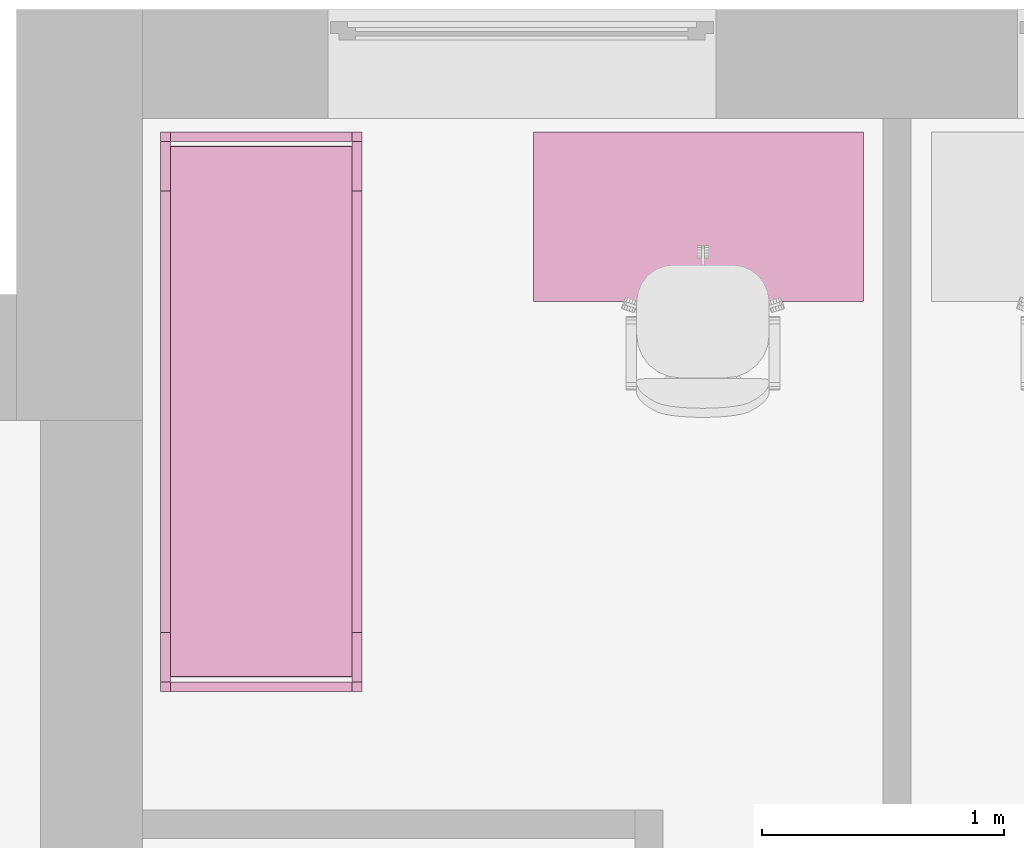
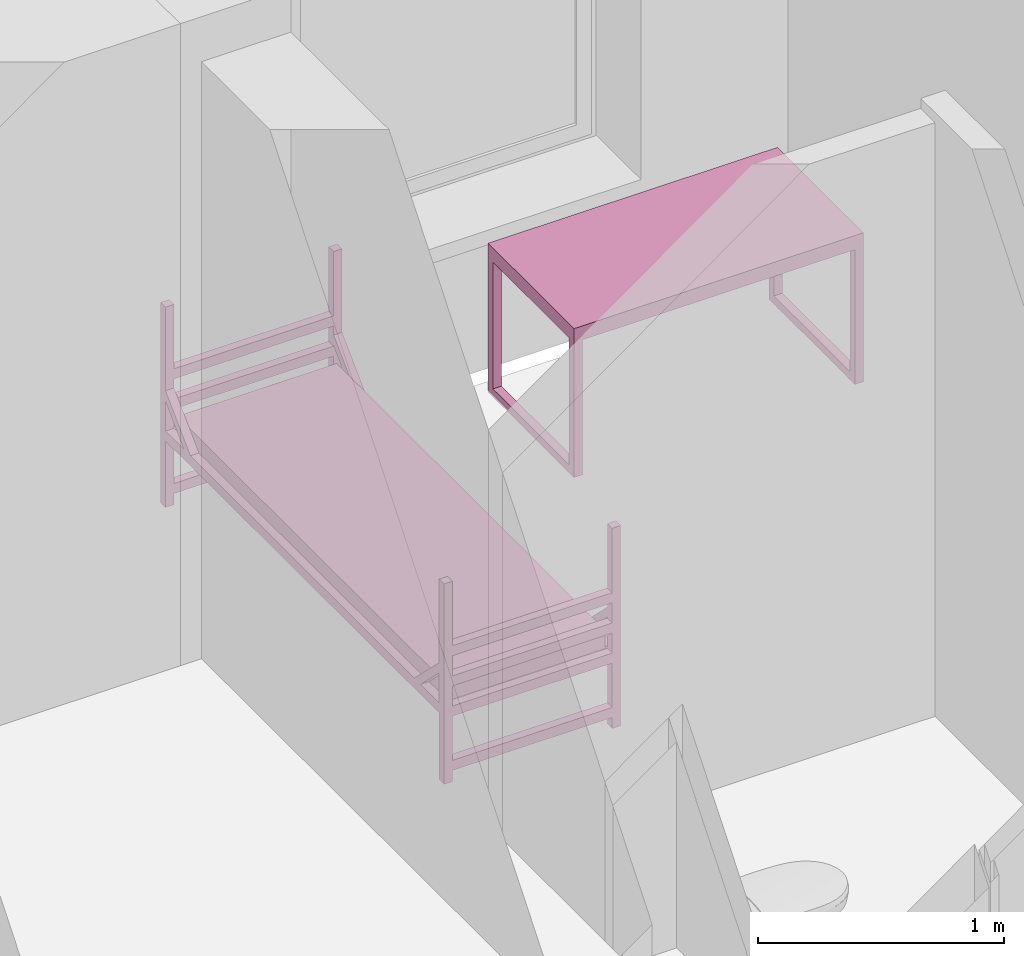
# One storey, part 27 of 48: 2 furnishings.
"""IFC2X3 building model written with IfcOpenShell, lengths in millimetres."""

from ifc_helpers import new_model, entity, si_unit, converted_unit, derived_unit, direction, frame, frame_2d, origin, place, context, subcontext, project, spatial, polyline, circle_curve, parameter, trimmed, segment, composite_curve, rectangle, outline, extrude, faceted_brep, source, transform, mapped, material, material_list, type_object, type_shapes, element, save


model = new_model("IFC2X3")

# Units and contexts
model_context = context("Model", 3, precision=0.01, world=origin(), true_north=direction((6.12303176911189e-17, 1.0)))
body_context = subcontext(model_context, "Body", "Model", "MODEL_VIEW")
ifc_project = project(units=[si_unit("LENGTHUNIT", "METRE", prefix="MILLI"), si_unit("AREAUNIT", "SQUARE_METRE"), si_unit("VOLUMEUNIT", "CUBIC_METRE"), converted_unit("PLANEANGLEUNIT", "DEGREE", entity("IfcRatioMeasure", 0.0174532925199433), si_unit("PLANEANGLEUNIT", "RADIAN"), dimensions=[0, 0, 0, 0, 0, 0, 0]), si_unit("MASSUNIT", "GRAM", prefix="KILO"), derived_unit("MASSDENSITYUNIT", [(si_unit("MASSUNIT", "GRAM", prefix="KILO"), 1), (si_unit("LENGTHUNIT", "METRE"), -3)]), si_unit("TIMEUNIT", "SECOND"), si_unit("FREQUENCYUNIT", "HERTZ"), si_unit("THERMODYNAMICTEMPERATUREUNIT", "DEGREE_CELSIUS"), derived_unit("THERMALTRANSMITTANCEUNIT", [(si_unit("MASSUNIT", "GRAM", prefix="KILO"), 1), (si_unit("THERMODYNAMICTEMPERATUREUNIT", "KELVIN"), -1), (si_unit("TIMEUNIT", "SECOND"), -3)]), derived_unit("VOLUMETRICFLOWRATEUNIT", [(si_unit("LENGTHUNIT", "METRE"), 3), (si_unit("TIMEUNIT", "SECOND"), -1)]), si_unit("ELECTRICCURRENTUNIT", "AMPERE"), si_unit("ELECTRICVOLTAGEUNIT", "VOLT"), si_unit("POWERUNIT", "WATT"), si_unit("FORCEUNIT", "NEWTON", prefix="KILO"), si_unit("ILLUMINANCEUNIT", "LUX"), si_unit("LUMINOUSFLUXUNIT", "LUMEN"), si_unit("LUMINOUSINTENSITYUNIT", "CANDELA"), derived_unit("USERDEFINED", [(si_unit("MASSUNIT", "GRAM", prefix="KILO"), -1), (si_unit("LENGTHUNIT", "METRE"), -2), (si_unit("TIMEUNIT", "SECOND"), 3), (si_unit("LUMINOUSFLUXUNIT", "LUMEN"), 1)]), derived_unit("LINEARVELOCITYUNIT", [(si_unit("LENGTHUNIT", "METRE"), 1), (si_unit("TIMEUNIT", "SECOND"), -1)]), si_unit("PRESSUREUNIT", "PASCAL"), derived_unit("USERDEFINED", [(si_unit("LENGTHUNIT", "METRE"), -2), (si_unit("MASSUNIT", "GRAM", prefix="KILO"), 1), (si_unit("TIMEUNIT", "SECOND"), -2)]), derived_unit("LINEARFORCEUNIT", [(si_unit("MASSUNIT", "GRAM", prefix="KILO"), 1), (si_unit("LENGTHUNIT", "METRE"), 1), (si_unit("TIMEUNIT", "SECOND"), -2), (si_unit("LENGTHUNIT", "METRE"), -1)]), derived_unit("PLANARFORCEUNIT", [(si_unit("MASSUNIT", "GRAM", prefix="KILO"), 1), (si_unit("LENGTHUNIT", "METRE"), 1), (si_unit("TIMEUNIT", "SECOND"), -2), (si_unit("LENGTHUNIT", "METRE"), -2)])], contexts=[model_context])

# Site, building, storey, space
site_placement = place(None, origin())
site = spatial("IfcSite", under=ifc_project, at=site_placement, Name="Default", CompositionType="ELEMENT")
building_placement = place(site_placement, origin())
building = spatial("IfcBuilding", under=site, at=building_placement, Name="SMA ARH", CompositionType="ELEMENT")
storey_placement = place(building_placement, frame((0.0, 0.0, 6600.0)))
storey = spatial("IfcBuildingStorey", under=building, at=storey_placement, Name="3 Korrus", CompositionType="ELEMENT", Elevation=6599.99999999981)
space_placement = place(storey_placement, origin())
space = spatial("IfcSpace", under=storey, at=space_placement, Name="3-20/1", CompositionType="ELEMENT", InteriorOrExteriorSpace="INTERNAL")

# Furnishings
ifc_material_1 = material(Name="Madrats")
furniture_type_1 = type_object("IfcFurnitureType", Name="Kasarmu voodi ühekordne 2308x830:Kasarmu voodi ühekordne 2308x830", material=ifc_material_1)
shared_shape_1 = source(origin(), body_context, "Body", "SweptSolid", [
    extrude(rectangle(XDim=39.9999999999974, YDim=750.000000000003, at=frame_2d((-1.35003119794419e-13, -2.8421709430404e-14), x_axis=(1.0, 0.0))), frame((1.68638457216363, -1226.7969571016, 55.0), z_axis=(0.0, 0.0, 1.0), x_axis=(0.0, -1.0, 0.0)), (0.0, 0.0, 1.0), 49.9999999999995),
    extrude(rectangle(XDim=39.9999999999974, YDim=750.000000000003, at=frame_2d((-1.35003119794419e-13, -2.8421709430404e-14), x_axis=(1.0, 0.0))), frame((1.68638457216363, -1226.7969571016, 325.0), z_axis=(0.0, 0.0, 1.0), x_axis=(0.0, -1.0, 0.0)), (0.0, 0.0, 1.0), 49.9999999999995),
    extrude(rectangle(XDim=39.9999999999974, YDim=750.000000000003, at=frame_2d((-1.35003119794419e-13, -2.8421709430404e-14), x_axis=(1.0, 0.0))), frame((1.68638457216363, -1226.7969571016, 475.0), z_axis=(0.0, 0.0, 1.0), x_axis=(0.0, -1.0, 0.0)), (0.0, 0.0, 1.0), 49.9999999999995),
    extrude(rectangle(XDim=39.9999999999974, YDim=750.000000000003, at=frame_2d((-1.35003119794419e-13, -2.8421709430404e-14), x_axis=(1.0, 0.0))), frame((1.68638457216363, -1226.7969571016, 625.0), z_axis=(0.0, 0.0, 1.0), x_axis=(0.0, -1.0, 0.0)), (0.0, 0.0, 1.0), 50.0000000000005),
    extrude(rectangle(XDim=39.9999999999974, YDim=750.000000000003, at=frame_2d((1.35003119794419e-13, -2.8421709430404e-14), x_axis=(1.0, 0.0))), frame((1.68638457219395, 1041.2030428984, 55.0), z_axis=(0.0, 0.0, 1.0), x_axis=(0.0, -1.0, 0.0)), (0.0, 0.0, 1.0), 50.0000000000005),
    extrude(rectangle(XDim=39.9999999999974, YDim=750.000000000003, at=frame_2d((1.35003119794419e-13, -2.8421709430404e-14), x_axis=(1.0, 0.0))), frame((1.68638457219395, 1041.2030428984, 325.0), z_axis=(0.0, 0.0, 1.0), x_axis=(0.0, -1.0, 0.0)), (0.0, 0.0, 1.0), 50.0000000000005),
    extrude(rectangle(XDim=39.9999999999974, YDim=750.000000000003, at=frame_2d((1.35003119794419e-13, -2.8421709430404e-14), x_axis=(1.0, 0.0))), frame((1.68638457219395, 1041.2030428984, 475.0), z_axis=(0.0, 0.0, 1.0), x_axis=(0.0, -1.0, 0.0)), (0.0, 0.0, 1.0), 50.0000000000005),
    extrude(rectangle(XDim=39.9999999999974, YDim=750.000000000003, at=frame_2d((1.35003119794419e-13, -2.8421709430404e-14), x_axis=(1.0, 0.0))), frame((1.68638457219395, 1041.2030428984, 625.0), z_axis=(0.0, 0.0, 1.0), x_axis=(0.0, -1.0, 0.0)), (0.0, 0.0, 1.0), 49.9999999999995),
    extrude(outline(composite_curve([segment(trimmed(circle_curve(frame_2d((1085.0, -40.0), x_axis=(1.0, 0.0)), 10.0), [parameter(270.0)], [parameter(0.0)], True, "PARAMETER"), True, "CONTINUOUS"), segment(polyline([(1095.0, -40.0), (1095.0, 40.0)]), True, "CONTINUOUS"), segment(trimmed(circle_curve(frame_2d((1085.0, 40.0), x_axis=(1.0, 0.0)), 10.0), [parameter(0.0)], [parameter(90.0000000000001)], True, "PARAMETER"), True, "CONTINUOUS"), segment(polyline([(1085.0, 50.0), (-1085.0, 50.0)]), True, "CONTINUOUS"), segment(trimmed(circle_curve(frame_2d((-1085.0, 40.0), x_axis=(1.0, 0.0)), 10.0), [parameter(90.0000000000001)], [parameter(180.0)], True, "PARAMETER"), True, "CONTINUOUS"), segment(polyline([(-1095.0, 40.0), (-1095.0, -40.0)]), True, "CONTINUOUS"), segment(trimmed(circle_curve(frame_2d((-1085.0, -40.0), x_axis=(1.0, 0.0)), 10.0), [parameter(180.0)], [parameter(270.0)], True, "PARAMETER"), True, "CONTINUOUS"), segment(polyline([(-1085.0, -50.0), (1085.0, -50.0)]), True, "CONTINUOUS")], self_intersect=False)), frame((-373.313615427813, -92.7969571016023, 405.0), z_axis=(1.0, 0.0, 0.0), x_axis=(0.0, -1.0, 0.0)), (0.0, 0.0, 1.0), 750.000000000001),
    extrude(outline(polyline([(-1114.0, -100.0), (1114.0, -100.0), (1114.0, -50.0), (961.59199141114, -50.0), (1114.0, 100.0), (1114.0, 150.0), (910.789321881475, -50.0), (-910.789321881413, -50.0), (-1114.0, 150.0), (-1114.0, 100.0), (-961.591991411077, -50.0), (-1114.0, -50.0), (-1114.0, -100.0)])), frame((-413.313615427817, -92.7969571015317, 430.0), z_axis=(1.0, 0.0, 0.0), x_axis=(0.0, 1.0, 0.0)), (0.0, 0.0, 1.0), 39.9999999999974),
    extrude(outline(polyline([(-1114.0, -100.0), (1114.0, -100.0), (1114.0, -50.0), (961.591991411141, -50.0), (1114.0, 100.0), (1114.0, 150.0), (910.789321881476, -50.0), (-910.789321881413, -50.0), (-1114.0, 150.0), (-1114.0, 100.0), (-961.591991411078, -50.0), (-1114.0, -50.0), (-1114.0, -100.0)])), frame((376.686384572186, -92.796957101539, 430.0), z_axis=(1.0, 0.0, 0.0), x_axis=(0.0, 1.0, 0.0)), (0.0, 0.0, 1.0), 39.9999999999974),
    extrude(rectangle(XDim=39.9999999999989, YDim=39.9999999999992, at=frame_2d((-6.75015598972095e-14, 0.0), x_axis=(1.0, 0.0))), frame((396.686384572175, -1226.79695710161, 0.0), z_axis=(0.0, 0.0, 1.0), x_axis=(0.0, 1.0, 0.0)), (0.0, 0.0, 1.0), 995.0),
    extrude(rectangle(XDim=39.9999999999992, YDim=39.9999999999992, at=frame_2d((-1.35003119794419e-13, 0.0), x_axis=(1.0, 0.0))), frame((396.686384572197, 1041.20304289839, 0.0), z_axis=(0.0, 0.0, 1.0), x_axis=(0.0, 1.0, 0.0)), (0.0, 0.0, 1.0), 995.0),
    extrude(rectangle(XDim=40.0000000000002, YDim=39.9999999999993, at=frame_2d((-1.35003119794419e-13, 0.0), x_axis=(1.0, 0.0))), frame((-393.313615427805, 1041.2030428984, 0.0), z_axis=(0.0, 0.0, 1.0), x_axis=(0.0, 1.0, 0.0)), (0.0, 0.0, 1.0), 995.0),
    extrude(rectangle(XDim=39.9999999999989, YDim=39.9999999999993, at=frame_2d((-6.75015598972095e-14, 0.0), x_axis=(1.0, 0.0))), frame((-393.313615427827, -1226.7969571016, 0.0), z_axis=(0.0, 0.0, 1.0), x_axis=(0.0, 1.0, 0.0)), (0.0, 0.0, 1.0), 995.0),
])
type_shapes(furniture_type_1, [shared_shape_1])
furnishing_1_placement = place(space_placement, frame((2653.31361542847, 11380.0, 0.0)))
element("IfcFurnishingElement", 1, at=furnishing_1_placement, inside=space, type_object=furniture_type_1, material=ifc_material_1, Name="Kasarmu voodi ühekordne 2308x830:Kasarmu voodi ühekordne 2308x830", ObjectType="Kasarmu voodi ühekordne 2308x830:Kasarmu voodi ühekordne 2308x830", context=body_context, shape_type="MappedRepresentation", body=[
    mapped(shared_shape_1, transform((0.0, 0.0, 0.0), scale=1.0)),
])
ifc_material_2 = material(Name="<Unnamed>")
ifc_material_list = material_list([ifc_material_2, ifc_material_2])
furniture_type_2 = type_object("IfcFurnitureType", Name="kirjutuslaud 1360x700mm:kirjutuslaud 1360x700mm", material=ifc_material_list)
shared_shape_2 = source(origin(), body_context, "Body", "Brep", [
    faceted_brep([(680.0, -350.0, 720.0), (680.0, 350.0, 720.0), (680.0, 350.0, 750.0), (680.0, -350.0, 750.0), (-680.0, -350.0, 720.0), (-680.0, -350.0, 750.0), (-680.0, 350.0, 750.0), (-680.0, 350.0, 720.0)], [[[0, 1, 2, 3]], [[4, 5, 6, 7]], [[1, 0, 4, 7]], [[2, 1, 7, 6]], [[3, 2, 6, 5]], [[0, 3, 5, 4]]]),
    faceted_brep([(-640.0, -310.0, 680.0), (-640.0, 310.0, 680.0), (-640.0, 310.0, 720.0), (-640.0, -310.0, 720.0), (-680.0, -350.0, 720.0), (-680.0, 350.0, 720.0), (-680.0, 350.0, 10.0), (-680.0, -350.0, 10.0), (-680.0, 310.0, 680.0), (-680.0, -310.0, 680.0), (-680.0, -310.0, 50.0), (-680.0, 310.0, 50.0), (-640.0, -350.0, 10.0), (-640.0, -350.0, 680.0), (640.0, -350.0, 680.0), (640.0, -350.0, 10.0), (680.0, -350.0, 10.0), (680.0, -350.0, 720.0), (-640.0, 350.0, 10.0), (680.0, 350.0, 720.0), (680.0, 350.0, 10.0), (640.0, 350.0, 10.0), (640.0, 350.0, 680.0), (-640.0, 350.0, 680.0), (640.0, 310.0, 720.0), (640.0, -310.0, 720.0), (-640.0, 310.0, 50.0), (-640.0, -310.0, 50.0), (640.0, -310.0, 680.0), (640.0, 310.0, 680.0), (680.0, 310.0, 680.0), (680.0, 310.0, 50.0), (680.0, -310.0, 50.0), (680.0, -310.0, 680.0), (640.0, -310.0, 50.0), (640.0, 310.0, 50.0)], [[[0, 1, 2, 3]], [[4, 5, 6, 7], [8, 9, 10, 11]], [[4, 7, 12, 13, 14, 15, 16, 17]], [[18, 12, 7, 6]], [[6, 5, 19, 20, 21, 22, 23, 18]], [[19, 5, 4, 17], [2, 24, 25, 3]], [[26, 1, 8, 11]], [[27, 26, 11, 10]], [[0, 27, 10, 9]], [[1, 0, 9, 8]], [[14, 13, 0, 28]], [[24, 2, 1, 29]], [[3, 25, 28, 0]], [[17, 16, 20, 19], [30, 31, 32, 33]], [[21, 15, 14, 28, 34, 35, 29, 22]], [[20, 16, 15, 21]], [[31, 30, 29, 35]], [[32, 31, 35, 34]], [[33, 32, 34, 28]], [[30, 33, 28, 29]], [[29, 28, 25, 24]], [[29, 1, 23, 22]], [[12, 18, 23, 1, 26, 27, 0, 13]]]),
    faceted_brep([(-663.729456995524, -270.466136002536, 0.0), (-659.847171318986, -269.955023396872, 0.0), (-655.964885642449, -270.466136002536, 0.0), (-652.347171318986, -271.964642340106, 0.0), (-649.240569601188, -274.348421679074, 0.0), (-646.85679026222, -277.455023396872, 0.0), (-645.35828392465, -281.072737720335, 0.0), (-644.847171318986, -284.955023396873, 0.0), (-645.35828392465, -288.83730907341, 0.0), (-646.85679026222, -292.455023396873, 0.0), (-649.240569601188, -295.561625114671, 0.0), (-652.347171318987, -297.945404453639, 0.0), (-655.964885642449, -299.443910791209, 0.0), (-659.847171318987, -299.955023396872, 0.0), (-663.729456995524, -299.443910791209, 0.0), (-667.347171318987, -297.945404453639, 0.0), (-670.453773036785, -295.561625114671, 0.0), (-672.837552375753, -292.455023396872, 0.0), (-674.336058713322, -288.83730907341, 0.0), (-674.847171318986, -284.955023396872, 0.0), (-674.336058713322, -281.072737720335, 0.0), (-672.837552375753, -277.455023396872, 0.0), (-670.453773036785, -274.348421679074, 0.0), (-667.347171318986, -271.964642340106, 0.0), (-655.964885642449, -299.443910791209, 10.0), (-652.347171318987, -297.945404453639, 10.0), (-649.240569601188, -295.561625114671, 10.0), (-646.85679026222, -292.455023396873, 10.0), (-645.35828392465, -288.83730907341, 10.0), (-644.847171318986, -284.955023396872, 10.0), (-645.35828392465, -281.072737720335, 10.0), (-646.85679026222, -277.455023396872, 10.0), (-649.240569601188, -274.348421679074, 10.0), (-652.347171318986, -271.964642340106, 10.0), (-655.964885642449, -270.466136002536, 10.0), (-659.847171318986, -269.955023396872, 10.0), (-663.729456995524, -270.466136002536, 10.0), (-667.347171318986, -271.964642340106, 10.0), (-670.453773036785, -274.348421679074, 10.0), (-672.837552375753, -277.455023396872, 10.0), (-674.336058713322, -281.072737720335, 10.0), (-674.847171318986, -284.955023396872, 10.0), (-674.336058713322, -288.83730907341, 10.0), (-672.837552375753, -292.455023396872, 10.0), (-670.453773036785, -295.561625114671, 10.0), (-667.347171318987, -297.945404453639, 10.0), (-663.729456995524, -299.443910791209, 10.0), (-659.847171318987, -299.955023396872, 10.0)], [[[0, 1, 2, 3, 4, 5, 6, 7, 8, 9, 10, 11, 12, 13, 14, 15, 16, 17, 18, 19, 20, 21, 22, 23]], [[24, 25, 26, 27, 28, 29, 30, 31, 32, 33, 34, 35, 36, 37, 38, 39, 40, 41, 42, 43, 44, 45, 46, 47]], [[18, 42, 41, 19]], [[17, 43, 42, 18]], [[45, 44, 16, 15]], [[17, 16, 44, 43]], [[46, 45, 15, 14]], [[47, 46, 14, 13]], [[12, 24, 47, 13]], [[11, 25, 24, 12]], [[27, 26, 10, 9]], [[11, 10, 26, 25]], [[28, 27, 9, 8]], [[29, 28, 8, 7]], [[6, 30, 29, 7]], [[5, 31, 30, 6]], [[33, 32, 4, 3]], [[5, 4, 32, 31]], [[34, 33, 3, 2]], [[35, 34, 2, 1]], [[0, 36, 35, 1]], [[23, 37, 36, 0]], [[39, 38, 22, 21]], [[23, 22, 38, 37]], [[40, 39, 21, 20]], [[41, 40, 20, 19]]]),
    faceted_brep([(-655.964885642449, 270.466136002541, 10.0), (-652.347171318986, 271.964642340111, 10.0), (-649.240569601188, 274.348421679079, 10.0), (-646.85679026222, 277.455023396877, 10.0), (-645.35828392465, 281.07273772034, 10.0), (-644.847171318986, 284.955023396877, 10.0), (-645.35828392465, 288.837309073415, 10.0), (-646.85679026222, 292.455023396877, 10.0), (-649.240569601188, 295.561625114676, 10.0), (-652.347171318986, 297.945404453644, 10.0), (-655.964885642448, 299.443910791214, 10.0), (-659.847171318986, 299.955023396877, 10.0), (-663.729456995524, 299.443910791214, 10.0), (-667.347171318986, 297.945404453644, 10.0), (-670.453773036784, 295.561625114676, 10.0), (-672.837552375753, 292.455023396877, 10.0), (-674.336058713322, 288.837309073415, 10.0), (-674.847171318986, 284.955023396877, 10.0), (-674.336058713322, 281.07273772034, 10.0), (-672.837552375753, 277.455023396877, 10.0), (-670.453773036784, 274.348421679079, 10.0), (-667.347171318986, 271.964642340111, 10.0), (-663.729456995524, 270.466136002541, 10.0), (-659.847171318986, 269.955023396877, 10.0), (-655.964885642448, 299.443910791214, 0.0), (-652.347171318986, 297.945404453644, 0.0), (-649.240569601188, 295.561625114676, 0.0), (-646.85679026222, 292.455023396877, 0.0), (-645.35828392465, 288.837309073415, 0.0), (-644.847171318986, 284.955023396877, 0.0), (-645.35828392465, 281.07273772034, 0.0), (-646.85679026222, 277.455023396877, 0.0), (-649.240569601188, 274.348421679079, 0.0), (-652.347171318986, 271.964642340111, 0.0), (-655.964885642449, 270.466136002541, 0.0), (-659.847171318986, 269.955023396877, 0.0), (-663.729456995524, 270.466136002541, 0.0), (-667.347171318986, 271.964642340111, 0.0), (-670.453773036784, 274.348421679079, 0.0), (-672.837552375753, 277.455023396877, 0.0), (-674.336058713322, 281.07273772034, 0.0), (-674.847171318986, 284.955023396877, 0.0), (-674.336058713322, 288.837309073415, 0.0), (-672.837552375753, 292.455023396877, 0.0), (-670.453773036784, 295.561625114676, 0.0), (-667.347171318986, 297.945404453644, 0.0), (-663.729456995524, 299.443910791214, 0.0), (-659.847171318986, 299.955023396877, 0.0)], [[[0, 1, 2, 3, 4, 5, 6, 7, 8, 9, 10, 11, 12, 13, 14, 15, 16, 17, 18, 19, 20, 21, 22, 23]], [[24, 25, 26, 27, 28, 29, 30, 31, 32, 33, 34, 35, 36, 37, 38, 39, 40, 41, 42, 43, 44, 45, 46, 47]], [[40, 18, 17, 41]], [[39, 19, 18, 40]], [[21, 20, 38, 37]], [[39, 38, 20, 19]], [[22, 21, 37, 36]], [[23, 22, 36, 35]], [[34, 0, 23, 35]], [[33, 1, 0, 34]], [[3, 2, 32, 31]], [[33, 32, 2, 1]], [[4, 3, 31, 30]], [[5, 4, 30, 29]], [[28, 6, 5, 29]], [[27, 7, 6, 28]], [[9, 8, 26, 25]], [[27, 26, 8, 7]], [[10, 9, 25, 24]], [[11, 10, 24, 47]], [[46, 12, 11, 47]], [[45, 13, 12, 46]], [[15, 14, 44, 43]], [[45, 44, 14, 13]], [[16, 15, 43, 42]], [[17, 16, 42, 41]]]),
    faceted_brep([(656.270543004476, -270.466136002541, 0.0), (660.152828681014, -269.955023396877, 0.0), (664.035114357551, -270.466136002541, 0.0), (667.652828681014, -271.96464234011, 0.0), (670.759430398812, -274.348421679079, 0.0), (673.14320973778, -277.455023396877, 0.0), (674.64171607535, -281.072737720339, 0.0), (675.152828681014, -284.955023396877, 0.0), (674.64171607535, -288.837309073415, 0.0), (673.14320973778, -292.455023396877, 0.0), (670.759430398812, -295.561625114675, 0.0), (667.652828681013, -297.945404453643, 0.0), (664.035114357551, -299.443910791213, 0.0), (660.152828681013, -299.955023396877, 0.0), (656.270543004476, -299.443910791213, 0.0), (652.652828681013, -297.945404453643, 0.0), (649.546226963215, -295.561625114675, 0.0), (647.162447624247, -292.455023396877, 0.0), (645.663941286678, -288.837309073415, 0.0), (645.152828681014, -284.955023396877, 0.0), (645.663941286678, -281.072737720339, 0.0), (647.162447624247, -277.455023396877, 0.0), (649.546226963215, -274.348421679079, 0.0), (652.652828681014, -271.96464234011, 0.0), (664.035114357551, -299.443910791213, 10.0), (667.652828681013, -297.945404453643, 10.0), (670.759430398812, -295.561625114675, 10.0), (673.14320973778, -292.455023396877, 10.0), (674.64171607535, -288.837309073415, 10.0), (675.152828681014, -284.955023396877, 10.0), (674.64171607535, -281.072737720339, 10.0), (673.14320973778, -277.455023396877, 10.0), (670.759430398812, -274.348421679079, 10.0), (667.652828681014, -271.96464234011, 10.0), (664.035114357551, -270.466136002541, 10.0), (660.152828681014, -269.955023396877, 10.0), (656.270543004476, -270.466136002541, 10.0), (652.652828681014, -271.96464234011, 10.0), (649.546226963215, -274.348421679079, 10.0), (647.162447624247, -277.455023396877, 10.0), (645.663941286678, -281.072737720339, 10.0), (645.152828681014, -284.955023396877, 10.0), (645.663941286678, -288.837309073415, 10.0), (647.162447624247, -292.455023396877, 10.0), (649.546226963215, -295.561625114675, 10.0), (652.652828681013, -297.945404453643, 10.0), (656.270543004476, -299.443910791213, 10.0), (660.152828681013, -299.955023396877, 10.0)], [[[0, 1, 2, 3, 4, 5, 6, 7, 8, 9, 10, 11, 12, 13, 14, 15, 16, 17, 18, 19, 20, 21, 22, 23]], [[24, 25, 26, 27, 28, 29, 30, 31, 32, 33, 34, 35, 36, 37, 38, 39, 40, 41, 42, 43, 44, 45, 46, 47]], [[18, 42, 41, 19]], [[17, 43, 42, 18]], [[45, 44, 16, 15]], [[17, 16, 44, 43]], [[46, 45, 15, 14]], [[47, 46, 14, 13]], [[12, 24, 47, 13]], [[11, 25, 24, 12]], [[27, 26, 10, 9]], [[11, 10, 26, 25]], [[28, 27, 9, 8]], [[29, 28, 8, 7]], [[6, 30, 29, 7]], [[5, 31, 30, 6]], [[33, 32, 4, 3]], [[5, 4, 32, 31]], [[34, 33, 3, 2]], [[35, 34, 2, 1]], [[0, 36, 35, 1]], [[23, 37, 36, 0]], [[39, 38, 22, 21]], [[23, 22, 38, 37]], [[40, 39, 21, 20]], [[41, 40, 20, 19]]]),
    faceted_brep([(664.035114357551, 270.466136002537, 10.0), (667.652828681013, 271.964642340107, 10.0), (670.759430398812, 274.348421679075, 10.0), (673.14320973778, 277.455023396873, 10.0), (674.64171607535, 281.072737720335, 10.0), (675.152828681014, 284.955023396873, 10.0), (674.64171607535, 288.837309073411, 10.0), (673.14320973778, 292.455023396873, 10.0), (670.759430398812, 295.561625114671, 10.0), (667.652828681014, 297.94540445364, 10.0), (664.035114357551, 299.443910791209, 10.0), (660.152828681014, 299.955023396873, 10.0), (656.270543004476, 299.443910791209, 10.0), (652.652828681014, 297.94540445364, 10.0), (649.546226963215, 295.561625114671, 10.0), (647.162447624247, 292.455023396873, 10.0), (645.663941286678, 288.837309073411, 10.0), (645.152828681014, 284.955023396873, 10.0), (645.663941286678, 281.072737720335, 10.0), (647.162447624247, 277.455023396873, 10.0), (649.546226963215, 274.348421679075, 10.0), (652.652828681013, 271.964642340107, 10.0), (656.270543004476, 270.466136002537, 10.0), (660.152828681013, 269.955023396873, 10.0), (664.035114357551, 299.443910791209, 0.0), (667.652828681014, 297.94540445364, 0.0), (670.759430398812, 295.561625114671, 0.0), (673.14320973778, 292.455023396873, 0.0), (674.64171607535, 288.837309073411, 0.0), (675.152828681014, 284.955023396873, 0.0), (674.64171607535, 281.072737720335, 0.0), (673.14320973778, 277.455023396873, 0.0), (670.759430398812, 274.348421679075, 0.0), (667.652828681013, 271.964642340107, 0.0), (664.035114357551, 270.466136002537, 0.0), (660.152828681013, 269.955023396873, 0.0), (656.270543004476, 270.466136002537, 0.0), (652.652828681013, 271.964642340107, 0.0), (649.546226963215, 274.348421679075, 0.0), (647.162447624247, 277.455023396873, 0.0), (645.663941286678, 281.072737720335, 0.0), (645.152828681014, 284.955023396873, 0.0), (645.663941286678, 288.837309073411, 0.0), (647.162447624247, 292.455023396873, 0.0), (649.546226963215, 295.561625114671, 0.0), (652.652828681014, 297.94540445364, 0.0), (656.270543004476, 299.443910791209, 0.0), (660.152828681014, 299.955023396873, 0.0)], [[[0, 1, 2, 3, 4, 5, 6, 7, 8, 9, 10, 11, 12, 13, 14, 15, 16, 17, 18, 19, 20, 21, 22, 23]], [[24, 25, 26, 27, 28, 29, 30, 31, 32, 33, 34, 35, 36, 37, 38, 39, 40, 41, 42, 43, 44, 45, 46, 47]], [[40, 18, 17, 41]], [[39, 19, 18, 40]], [[21, 20, 38, 37]], [[39, 38, 20, 19]], [[22, 21, 37, 36]], [[23, 22, 36, 35]], [[34, 0, 23, 35]], [[33, 1, 0, 34]], [[3, 2, 32, 31]], [[33, 32, 2, 1]], [[4, 3, 31, 30]], [[5, 4, 30, 29]], [[28, 6, 5, 29]], [[27, 7, 6, 28]], [[9, 8, 26, 25]], [[27, 26, 8, 7]], [[10, 9, 25, 24]], [[11, 10, 24, 47]], [[46, 12, 11, 47]], [[45, 13, 12, 46]], [[15, 14, 44, 43]], [[45, 44, 14, 13]], [[16, 15, 43, 42]], [[17, 16, 42, 41]]]),
])
type_shapes(furniture_type_2, [shared_shape_2])
furnishing_2_placement = place(space_placement, frame((4459.0, 12091.2030428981, 0.0)))
element("IfcFurnishingElement", 2, at=furnishing_2_placement, inside=space, type_object=furniture_type_2, Name="kirjutuslaud 1360x700mm:kirjutuslaud 1360x700mm", ObjectType="kirjutuslaud 1360x700mm:kirjutuslaud 1360x700mm", context=body_context, shape_type="MappedRepresentation", body=[
    mapped(shared_shape_2, transform((0.0, 0.0, 0.0), scale=1.0)),
])

save(model, "model.ifc")
